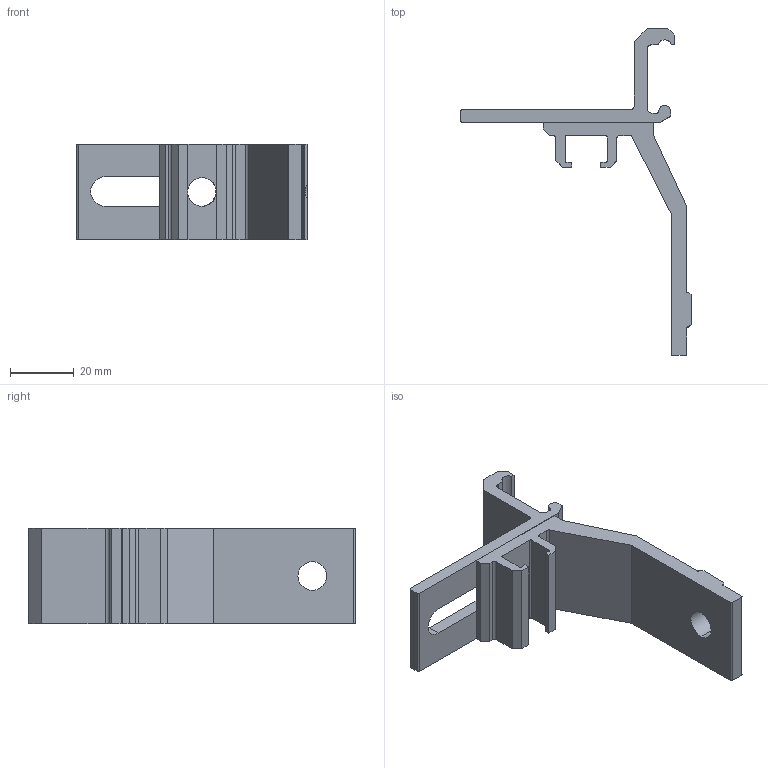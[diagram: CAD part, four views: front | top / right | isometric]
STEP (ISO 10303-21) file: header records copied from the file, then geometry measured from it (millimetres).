
FILE_DESCRIPTION (( 'STEP AP214' ), '1' );
FILE_NAME ('FABER - FGRA 16x30x64.STEP', '2017-04-05T12:11:55', ( '' ), ( '' ), 'SwSTEP 2.0', 'SolidWorks 2016', '' );
FILE_SCHEMA (( 'AUTOMOTIVE_DESIGN' ));
Length unit declared in the file: millimetre
Products named in the file (3): FABER - FGRA 16x30x64; Partie inf fgra-16X30X64; Partie sup. FGRA-16X30X64
Assembly tree (2 placements, depth 2):
  FABER - FGRA 16x30x64
    Partie inf fgra-16X30X64
    Partie sup. FGRA-16X30X64
Bounding box: 72.3 x 102.5 x 30 mm (x, y, z)
Volume: 27314.3 mm3; surface area: 15684.8 mm2
Topology: 2 solids, 2 shells, 79 faces, 228 edges, 152 vertices
Faces by surface type: plane 51, cylinder 28
Entity records: 2721 total; most frequent: CARTESIAN_POINT 467, ORIENTED_EDGE 456, DIRECTION 452, EDGE_CURVE 228, VECTOR 170, LINE 170, VERTEX_POINT 152, AXIS2_PLACEMENT_3D 141
